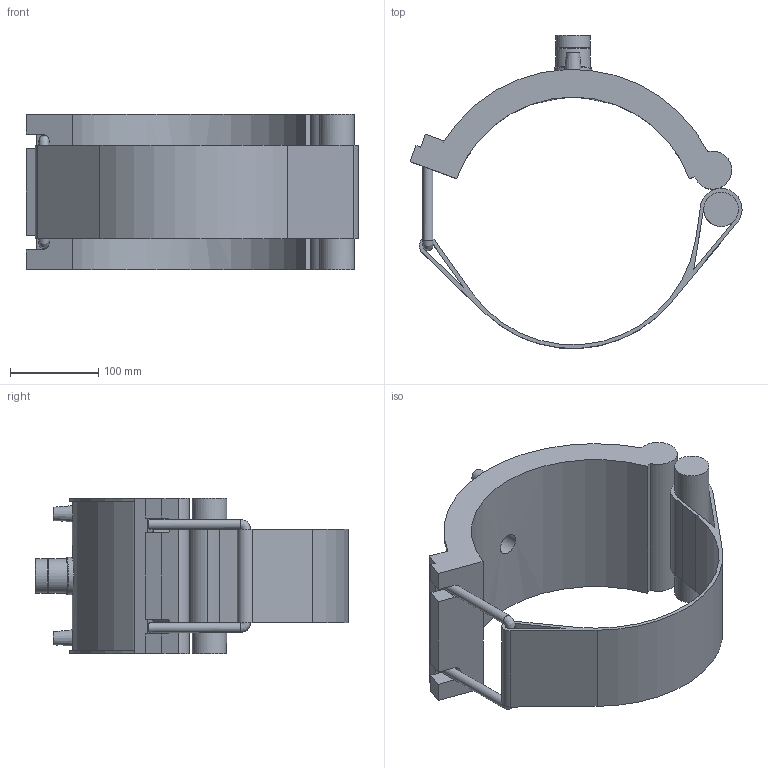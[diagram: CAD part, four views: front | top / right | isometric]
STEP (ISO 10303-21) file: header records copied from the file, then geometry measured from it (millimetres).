
FILE_DESCRIPTION(/* description */ ('PLASSON TRANSITION SADDLE 10''''DIPS x 1"NPT'),/* implementation_level */ '2;1');
FILE_NAME(/* name */ 'C:\Dropbox\KIMPROJECTS-Inventor 2019\99-16-3568-Processing Inch\ASTM ElectroFusion 2021\5938D\5938D00310060.ipt.stp',/* time_stamp */ '2021-08-30T09:52:21+03:00',/* author */ ('KIM'),/* organization */ (''),/* preprocessor_version */ 'ST-DEVELOPER v17.2',/* originating_system */ 'Autodesk Inventor 2019',/* authorisation */ '');
FILE_SCHEMA (('AUTOMOTIVE_DESIGN { 1 0 10303 214 3 1 1 }'));
Length unit declared in the file: inch
Products named in the file (1): 5938D00310060
Bounding box: 376.03 x 354.57 x 176.02 mm (x, y, z)
Volume: 2796482.4 mm3; surface area: 381616.9 mm2
Topology: 1 solids, 1 shells, 78 faces, 196 edges, 128 vertices
Faces by surface type: plane 42, cylinder 28, cone 5, torus 2, bspline 1
Full cylindrical faces by diameter (mm): 4 x2, 10 x2, 11.224 x2, 24.233 x1, 30.291 x1, 38.378 x1, 39.068 x1, 39.378 x2, 42.407 x1
Entity records: 2753 total; most frequent: CARTESIAN_POINT 762, DIRECTION 414, ORIENTED_EDGE 394, EDGE_CURVE 197, AXIS2_PLACEMENT_3D 150, VERTEX_POINT 128, LINE 114, VECTOR 114
